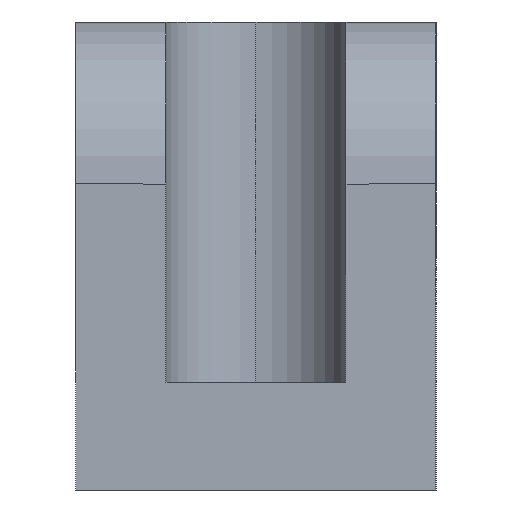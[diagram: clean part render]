
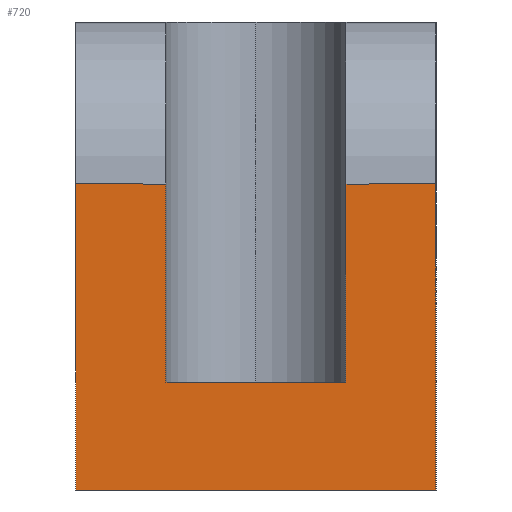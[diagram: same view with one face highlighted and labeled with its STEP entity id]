
A CAD part, left-side view. The second image highlights one B-rep face of the part: STEP entity #720.
In plain terms, the highlighted planar face has unit normal (-1, 0, 0).
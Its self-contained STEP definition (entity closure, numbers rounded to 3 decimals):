
#2 = EDGE_CURVE ( 'NONE', #42, #227, #75, .T. ) ;
#18 = EDGE_CURVE ( 'NONE', #42, #478, #229, .T. ) ;
#31 = ORIENTED_EDGE ( 'NONE', *, *, #32, .T. ) ;
#32 = EDGE_CURVE ( 'NONE', #276, #542, #110, .T. ) ;
#35 = EDGE_CURVE ( 'NONE', #227, #464, #121, .T. ) ;
#40 = CARTESIAN_POINT ( 'NONE',  ( 0., 2.5, -10. ) ) ;
#42 = VERTEX_POINT ( 'NONE', #40 ) ;
#63 = EDGE_LOOP ( 'NONE', ( #393, #525, #523, #305, #31, #220, #268, #122 ) ) ;
#75 = LINE ( 'NONE', #549, #85 ) ;
#82 = DIRECTION ( 'NONE',  ( 0., 0., -1. ) ) ;
#83 = DIRECTION ( 'NONE',  ( 1., 0., 0. ) ) ;
#85 = VECTOR ( 'NONE', #404, 1000. ) ;
#91 = PLANE ( 'NONE',  #411 ) ;
#107 = VECTOR ( 'NONE', #180, 1000. ) ;
#110 = LINE ( 'NONE', #707, #107 ) ;
#117 = CARTESIAN_POINT ( 'NONE',  ( 0., 5., 0. ) ) ;
#121 = LINE ( 'NONE', #550, #123 ) ;
#122 = ORIENTED_EDGE ( 'NONE', *, *, #642, .F. ) ;
#123 = VECTOR ( 'NONE', #357, 1000. ) ;
#136 = CARTESIAN_POINT ( 'NONE',  ( 0., -2.5, -4.5 ) ) ;
#156 = CARTESIAN_POINT ( 'NONE',  ( 0., -2.5, -10. ) ) ;
#171 = DIRECTION ( 'NONE',  ( 0., 0., 1. ) ) ;
#178 = DIRECTION ( 'NONE',  ( 0., 0., 1. ) ) ;
#180 = DIRECTION ( 'NONE',  ( 0., -1., 0. ) ) ;
#185 = CARTESIAN_POINT ( 'NONE',  ( 0., -5., 0. ) ) ;
#191 = VECTOR ( 'NONE', #662, 1000. ) ;
#193 = CARTESIAN_POINT ( 'NONE',  ( 0., 5., -4.5 ) ) ;
#201 = DIRECTION ( 'NONE',  ( 0., 1., 0. ) ) ;
#220 = ORIENTED_EDGE ( 'NONE', *, *, #621, .T. ) ;
#227 = VERTEX_POINT ( 'NONE', #250 ) ;
#229 = LINE ( 'NONE', #334, #191 ) ;
#232 = EDGE_CURVE ( 'NONE', #276, #464, #690, .T. ) ;
#248 = CARTESIAN_POINT ( 'NONE',  ( 0., 5., -13. ) ) ;
#250 = CARTESIAN_POINT ( 'NONE',  ( 0., 2.5, -4.5 ) ) ;
#268 = ORIENTED_EDGE ( 'NONE', *, *, #613, .T. ) ;
#276 = VERTEX_POINT ( 'NONE', #248 ) ;
#305 = ORIENTED_EDGE ( 'NONE', *, *, #232, .F. ) ;
#334 = CARTESIAN_POINT ( 'NONE',  ( 0., 2.5, -10. ) ) ;
#335 = CARTESIAN_POINT ( 'NONE',  ( 0., -2.5, -10. ) ) ;
#357 = DIRECTION ( 'NONE',  ( 0., 1., 0. ) ) ;
#374 = CARTESIAN_POINT ( 'NONE',  ( 0., -5., -4.5 ) ) ;
#378 = CARTESIAN_POINT ( 'NONE',  ( 0., -5., -13. ) ) ;
#393 = ORIENTED_EDGE ( 'NONE', *, *, #18, .F. ) ;
#404 = DIRECTION ( 'NONE',  ( 0., 0., 1. ) ) ;
#411 = AXIS2_PLACEMENT_3D ( 'NONE', #117, #83, #82 ) ;
#420 = CARTESIAN_POINT ( 'NONE',  ( 0., 5., -4.5 ) ) ;
#451 = DIRECTION ( 'NONE',  ( 0., 0., 1. ) ) ;
#453 = CARTESIAN_POINT ( 'NONE',  ( 0., 5., 0. ) ) ;
#454 = FACE_OUTER_BOUND ( 'NONE', #63, .T. ) ;
#464 = VERTEX_POINT ( 'NONE', #420 ) ;
#470 = VERTEX_POINT ( 'NONE', #374 ) ;
#478 = VERTEX_POINT ( 'NONE', #335 ) ;
#505 = VECTOR ( 'NONE', #171, 1000. ) ;
#522 = VECTOR ( 'NONE', #178, 1000. ) ;
#523 = ORIENTED_EDGE ( 'NONE', *, *, #35, .T. ) ;
#524 = LINE ( 'NONE', #156, #505 ) ;
#525 = ORIENTED_EDGE ( 'NONE', *, *, #2, .T. ) ;
#526 = LINE ( 'NONE', #185, #522 ) ;
#541 = LINE ( 'NONE', #193, #562 ) ;
#542 = VERTEX_POINT ( 'NONE', #378 ) ;
#549 = CARTESIAN_POINT ( 'NONE',  ( 0., 2.5, -10. ) ) ;
#550 = CARTESIAN_POINT ( 'NONE',  ( 0., 5., -4.5 ) ) ;
#562 = VECTOR ( 'NONE', #201, 1000. ) ;
#613 = EDGE_CURVE ( 'NONE', #470, #716, #541, .T. ) ;
#621 = EDGE_CURVE ( 'NONE', #542, #470, #526, .T. ) ;
#642 = EDGE_CURVE ( 'NONE', #478, #716, #524, .T. ) ;
#662 = DIRECTION ( 'NONE',  ( 0., -1., 0. ) ) ;
#688 = VECTOR ( 'NONE', #451, 1000. ) ;
#690 = LINE ( 'NONE', #453, #688 ) ;
#707 = CARTESIAN_POINT ( 'NONE',  ( 0., 5., -13. ) ) ;
#716 = VERTEX_POINT ( 'NONE', #136 ) ;
#720 = ADVANCED_FACE ( 'NONE', ( #454 ), #91, .F. ) ;
